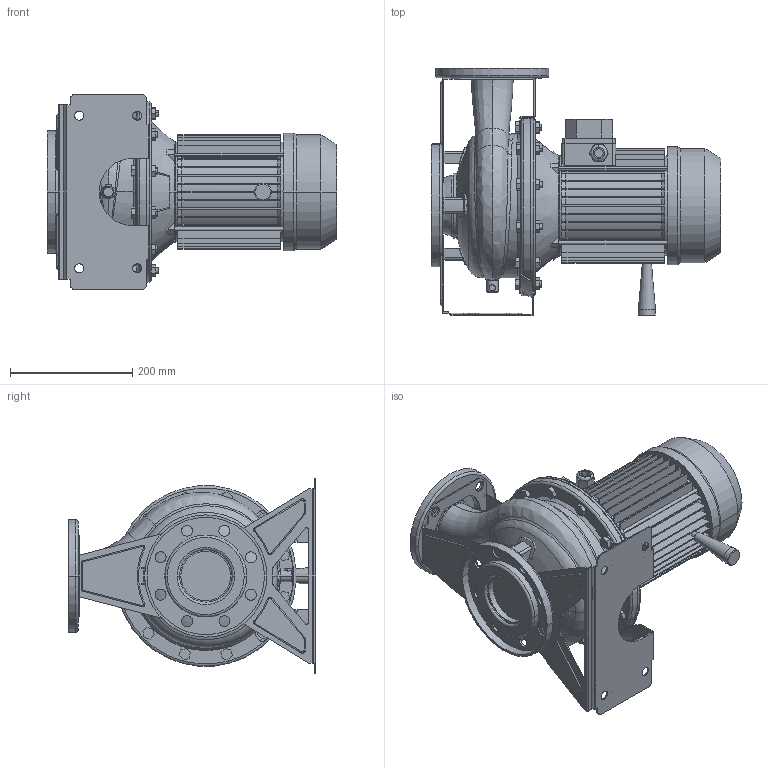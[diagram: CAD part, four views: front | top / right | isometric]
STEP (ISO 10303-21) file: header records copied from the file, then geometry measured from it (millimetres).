
FILE_DESCRIPTION((''),'2;1');
FILE_NAME('3M4_65-200_2_2_IE2_ASM','2012-03-14T',('Rosa'),('"Ebara Pumps Europe +39.444.706811"'),'PRO/ENGINEER BY PARAMETRIC TECHNOLOGY CORPORATION, 2009360','PRO/ENGINEER BY PARAMETRIC TECHNOLOGY CORPORATION, 2009360','');
FILE_SCHEMA(('AUTOMOTIVE_DESIGN { 1 0 10303 214 1 1 1 1 }'));
Length unit declared in the file: millimetre
Products named in the file (11): CORPO_65-200; ASP_65-200; FLANGIA_DIN_80_8_FORI; MAND_65-200; FLANGIA_DIN_65; BASE_3M_65-200; CORPO_SALDATO_65-200_ASM; SUPPORTO_3M_230_100; MEC_100X130_IE2; 72405; 3M4_65-200_2_2_IE2_ASM
Assembly tree (10 placements, depth 3):
  3M4_65-200_2_2_IE2_ASM
    CORPO_SALDATO_65-200_ASM
      CORPO_65-200
      ASP_65-200
      FLANGIA_DIN_80_8_FORI
      MAND_65-200
      FLANGIA_DIN_65
      BASE_3M_65-200
    SUPPORTO_3M_230_100
    MEC_100X130_IE2
    72405
Bounding box: 474 x 405 x 320 mm (x, y, z)
Volume: 11500246.4 mm3; surface area: 1385127.8 mm2
Topology: 12 solids, 12 shells, 1092 faces, 2763 edges, 1762 vertices
Faces by surface type: plane 578, cylinder 313, cone 102, torus 60, bspline 33, sphere 6
Entity records: 47573 total; most frequent: CARTESIAN_POINT 9786, DIRECTION 5680, ORIENTED_EDGE 5526, EDGE_CURVE 2763, PRESENTATION_STYLE_ASSIGNMENT 2760, STYLED_ITEM 2760, CURVE_STYLE 2749, AXIS2_PLACEMENT_3D 2068
